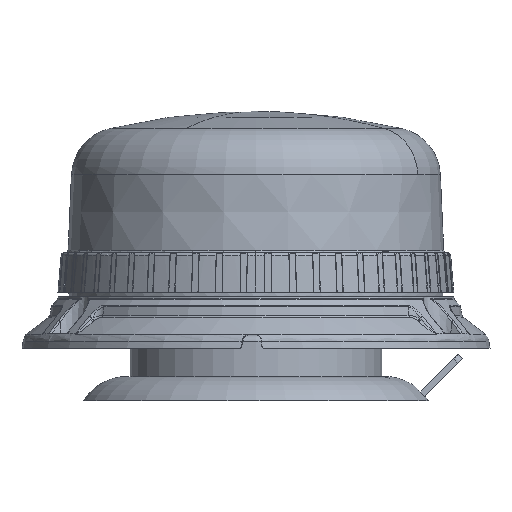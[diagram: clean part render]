
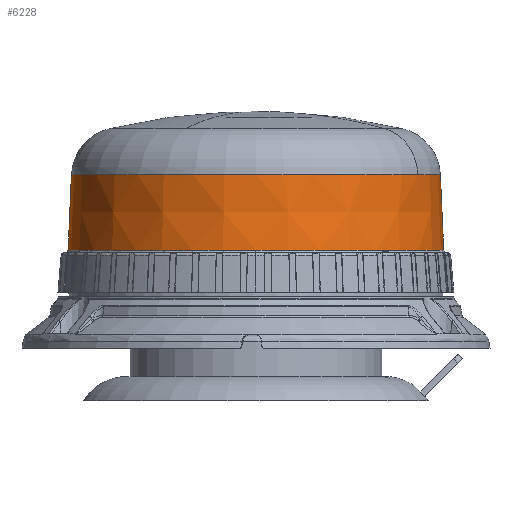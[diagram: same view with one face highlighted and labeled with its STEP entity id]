
A CAD part, left-side view. The second image highlights one B-rep face of the part: STEP entity #6228.
In plain terms, the highlighted conical face has half-angle 2.5 degrees and reference radius 51.096 mm.
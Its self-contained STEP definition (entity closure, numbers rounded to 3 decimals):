
#3273=CONICAL_SURFACE('',#37338,51.096,2.5);
#4046=FACE_OUTER_BOUND('',#15341,.T.);
#6228=ADVANCED_FACE('MANIFOLD_SOLID_BREP #9121',(#4046),#3273,.T.);
#8587=LINE('',#70597,#9602);
#8588=LINE('',#70599,#9603);
#9602=VECTOR('',#41031,1.);
#9603=VECTOR('',#41032,1.);
#15341=EDGE_LOOP('',(#22302,#22303,#22304,#22305,#22306,#22307,#22308));
#22302=ORIENTED_EDGE('',*,*,#33428,.T.);
#22303=ORIENTED_EDGE('',*,*,#33175,.T.);
#22304=ORIENTED_EDGE('',*,*,#33180,.T.);
#22305=ORIENTED_EDGE('',*,*,#33429,.T.);
#22306=ORIENTED_EDGE('',*,*,#33430,.T.);
#22307=ORIENTED_EDGE('',*,*,#33431,.T.);
#22308=ORIENTED_EDGE('',*,*,#33432,.T.);
#29000=VERTEX_POINT('',#64333);
#29001=VERTEX_POINT('',#64334);
#29003=VERTEX_POINT('',#64341);
#29249=VERTEX_POINT('',#70598);
#29250=VERTEX_POINT('',#70600);
#29251=VERTEX_POINT('',#70602);
#29252=VERTEX_POINT('',#70604);
#33175=EDGE_CURVE('GENERATED CIRCLE',#29000,#29001,#36063,.T.);
#33180=EDGE_CURVE('GENERATED CIRCLE',#29001,#29003,#36068,.T.);
#33428=EDGE_CURVE('LINE',#29249,#29000,#8587,.T.);
#33429=EDGE_CURVE('LINE',#29003,#29250,#8588,.T.);
#33430=EDGE_CURVE('GENERATED CIRCLE',#29250,#29251,#36071,.T.);
#33431=EDGE_CURVE('GENERATED CIRCLE',#29251,#29252,#36072,.T.);
#33432=EDGE_CURVE('GENERATED CIRCLE',#29252,#29249,#36073,.T.);
#36063=CIRCLE('',#37313,54.439);
#36068=CIRCLE('',#37319,54.439);
#36071=CIRCLE('',#37335,53.484);
#36072=CIRCLE('',#37336,53.484);
#36073=CIRCLE('',#37337,53.484);
#37313=AXIS2_PLACEMENT_3D('',#64332,#40985,#40986);
#37319=AXIS2_PLACEMENT_3D('',#64342,#40997,#40998);
#37335=AXIS2_PLACEMENT_3D('',#70601,#41033,#41034);
#37336=AXIS2_PLACEMENT_3D('',#70603,#41035,#41036);
#37337=AXIS2_PLACEMENT_3D('',#70605,#41037,#41038);
#37338=AXIS2_PLACEMENT_3D('',#70606,#41039,#41040);
#40985=DIRECTION('',(0.,0.,1.));
#40986=DIRECTION('',(1.,0.,0.));
#40997=DIRECTION('',(0.,0.,1.));
#40998=DIRECTION('',(1.,0.,0.));
#41031=DIRECTION('',(0.,0.044,-0.999));
#41032=DIRECTION('',(0.,0.044,0.999));
#41033=DIRECTION('',(0.,0.,-1.));
#41034=DIRECTION('',(-1.,0.,0.));
#41035=DIRECTION('',(0.,0.,-1.));
#41036=DIRECTION('',(-1.,0.,0.));
#41037=DIRECTION('',(0.,0.,-1.));
#41038=DIRECTION('',(-1.,0.,0.));
#41039=DIRECTION('',(0.,0.,-1.));
#41040=DIRECTION('',(0.,-1.,0.));
#64332=CARTESIAN_POINT('',(0.,200.,17.966));
#64333=CARTESIAN_POINT('',(0.,254.439,17.966));
#64334=CARTESIAN_POINT('',(-54.439,200.,17.966));
#64341=CARTESIAN_POINT('',(0.,145.561,17.966));
#64342=CARTESIAN_POINT('',(0.,200.,17.966));
#70597=CARTESIAN_POINT('',(0.,22035.242,-498844.425));
#70598=CARTESIAN_POINT('',(0.,253.484,39.856));
#70599=CARTESIAN_POINT('',(0.,-21635.242,-498844.425));
#70600=CARTESIAN_POINT('',(0.,146.516,39.856));
#70601=CARTESIAN_POINT('',(0.,200.,39.856));
#70602=CARTESIAN_POINT('',(-25.641,153.064,39.856));
#70603=CARTESIAN_POINT('',(0.,200.,39.856));
#70604=CARTESIAN_POINT('',(-53.484,200.,39.856));
#70605=CARTESIAN_POINT('',(0.,200.,39.856));
#70606=CARTESIAN_POINT('',(0.,200.,94.542));
